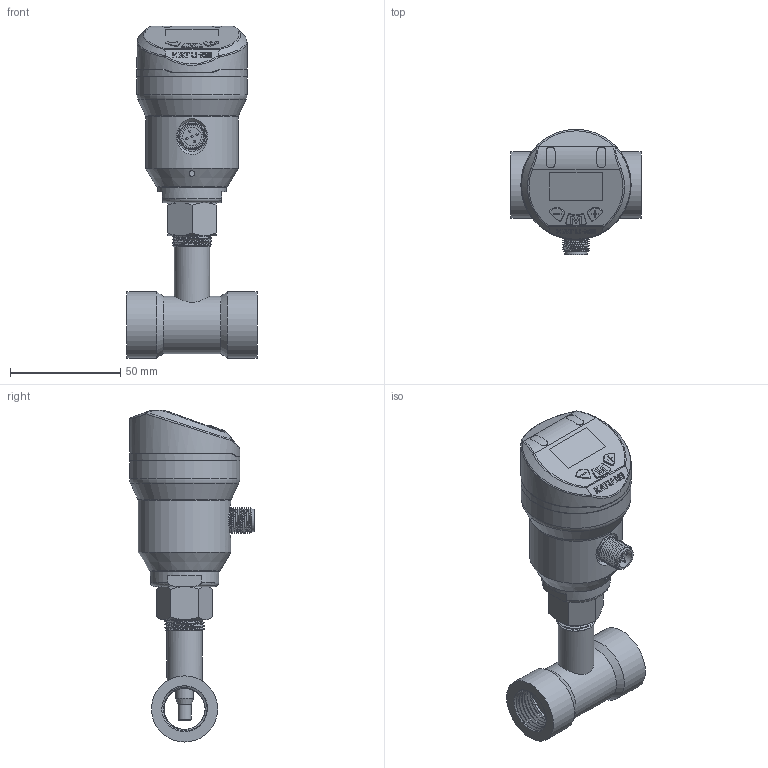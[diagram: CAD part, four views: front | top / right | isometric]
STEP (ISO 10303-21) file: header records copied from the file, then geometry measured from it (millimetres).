
FILE_DESCRIPTION( (''), '2;1');
FILE_NAME( 'QEKE_M18_L60_G3-4_tee.step', '2026-06-25T11:19:27+08:00', (''), (''), '', '', '');
FILE_SCHEMA (('AP203_CONFIGURATION_CONTROLLED_3D_DESIGN_OF_MECHANICAL_PARTS_AND_ASSEMBLIES_MIM_LF { 1 0 10303 403 2 1 2}'));
Length unit declared in the file: millimetre
Products named in the file (1): QEKE M18_L60_G3-4_tee
Bounding box: 59 x 56.7 x 150.61 mm (x, y, z)
Volume: 116424.9 mm3; surface area: 49434.4 mm2
Topology: 11 solids, 13 shells, 636 faces, 1577 edges, 1016 vertices
Faces by surface type: plane 327, cylinder 149, cone 60, bspline 57, torus 33, sphere 10
Full cylindrical faces by diameter (mm): 1 x10, 2.5 x1, 2.7 x5, 3.1 x1, 3.5 x2, 6 x2, 6.5 x1, 8 x1, 8.4 x1, 9.7 x1, 9.8 x1, 10.1 x1, 10.5 x1, 11 x2, 11.6 x1, 12 x2, 13.4 x1, 13.7 x1, 15.4 x1, 16 x1, 16.1 x1, 16.5 x6, 20 x1, 26 x1, 26.5 x2, 30 x2, 31 x1, 42 x1, 48 x1, 50 x3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
Entity records: 27948 total; most frequent: CARTESIAN_POINT 13095, ORIENTED_EDGE 2830, DIRECTION 2758, EDGE_CURVE 1415, AXIS2_PLACEMENT_3D 1003, VERTEX_POINT 956, EDGE_LOOP 788, LINE 752
